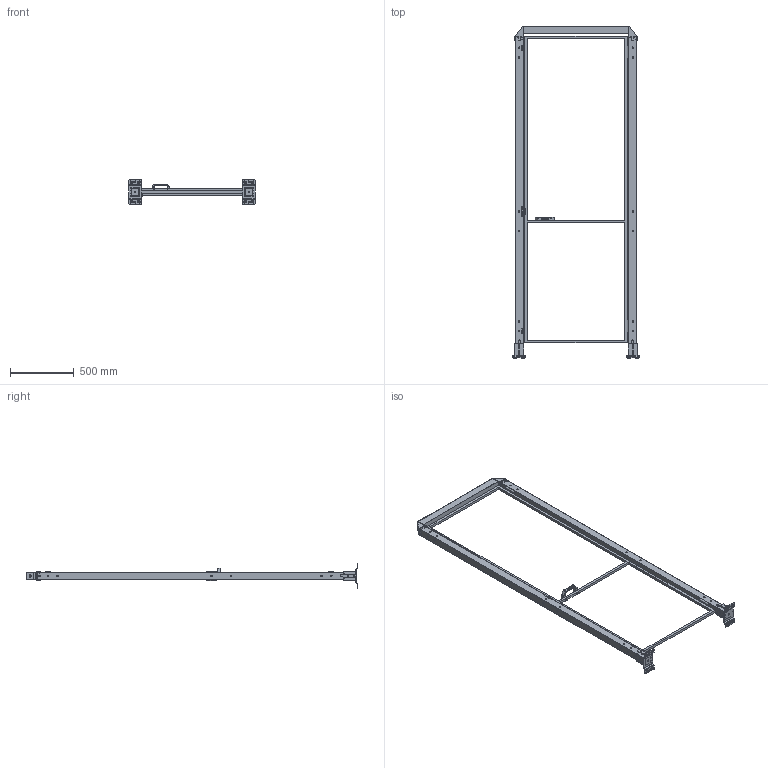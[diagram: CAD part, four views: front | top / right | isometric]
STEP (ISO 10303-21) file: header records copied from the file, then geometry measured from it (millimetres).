
FILE_DESCRIPTION(('STEP AP242'),'1');
FILE_NAME('vfda_bscncr2_08002520.stp','2025-01-31T11:15:41',('TraceParts'),('TraceParts S.A.'),'Spatial InterOp 3D',' ',' ');
FILE_SCHEMA(('AP242_MANAGED_MODEL_BASED_3D_ENGINEERING_MIM_LF {1 0 10303 442 1 1 4}'));
Length unit declared in the file: millimetre
Products named in the file (1): vfda_bscncr2_08002520_1
Bounding box: 990 x 2601 x 192 mm (x, y, z)
Volume: 5452352.4 mm3; surface area: 3618860 mm2
Topology: 12 solids, 12 shells, 1942 faces, 5208 edges, 3340 vertices
Faces by surface type: plane 950, cylinder 652, bspline 236, cone 60, torus 40, sphere 4
Entity records: 78408 total; most frequent: CARTESIAN_POINT 14215, ORIENTED_EDGE 10408, DIRECTION 9578, EDGE_CURVE 5204, VERTEX_POINT 3340, LINE 3216, VECTOR 3216, AXIS2_PLACEMENT_3D 3181
